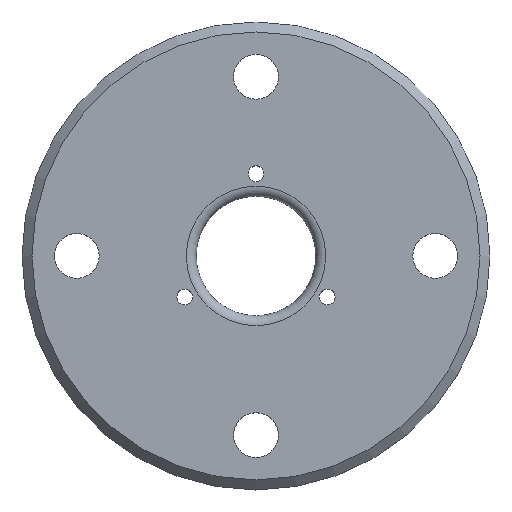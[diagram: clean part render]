
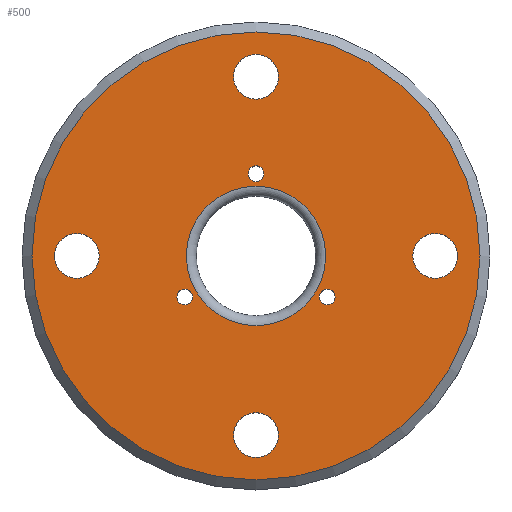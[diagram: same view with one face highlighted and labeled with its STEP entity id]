
A CAD part, top view. The second image highlights one B-rep face of the part: STEP entity #500.
In plain terms, the highlighted planar face has unit normal (0, 0, 1).
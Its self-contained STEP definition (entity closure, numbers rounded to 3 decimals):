
#13 = FACE_OUTER_BOUND ( 'NONE', #36, .T. ) ;
#15 = CARTESIAN_POINT ( 'NONE',  ( -20.25, 0., 0. ) ) ;
#17 = DIRECTION ( 'NONE',  ( -1., 0., 0. ) ) ;
#19 = CARTESIAN_POINT ( 'NONE',  ( -7.945, -4.125, 0. ) ) ;
#31 = EDGE_CURVE ( 'NONE', #832, #832, #183, .T. ) ;
#36 = EDGE_LOOP ( 'NONE', ( #515 ) ) ;
#43 = ORIENTED_EDGE ( 'NONE', *, *, #363, .T. ) ;
#53 = ORIENTED_EDGE ( 'NONE', *, *, #877, .T. ) ;
#61 = EDGE_LOOP ( 'NONE', ( #651 ) ) ;
#72 = FACE_BOUND ( 'NONE', #690, .T. ) ;
#78 = EDGE_CURVE ( 'NONE', #149, #149, #298, .T. ) ;
#95 = CARTESIAN_POINT ( 'NONE',  ( 15.75, 0., 0. ) ) ;
#130 = DIRECTION ( 'NONE',  ( 0., 0., -1. ) ) ;
#133 = DIRECTION ( 'NONE',  ( -1., 0., 0. ) ) ;
#149 = VERTEX_POINT ( 'NONE', #762 ) ;
#156 = DIRECTION ( 'NONE',  ( 0., 0., -1. ) ) ;
#162 = VERTEX_POINT ( 'NONE', #854 ) ;
#169 = CIRCLE ( 'NONE', #728, 2.25 ) ;
#183 = CIRCLE ( 'NONE', #309, 22.5 ) ;
#189 = ORIENTED_EDGE ( 'NONE', *, *, #606, .T. ) ;
#206 = CIRCLE ( 'NONE', #542, 2.25 ) ;
#207 = ORIENTED_EDGE ( 'NONE', *, *, #426, .T. ) ;
#227 = AXIS2_PLACEMENT_3D ( 'NONE', #510, #816, #133 ) ;
#232 = EDGE_LOOP ( 'NONE', ( #53 ) ) ;
#235 = DIRECTION ( 'NONE',  ( 0., 0., -1. ) ) ;
#237 = DIRECTION ( 'NONE',  ( 0., 0., 1. ) ) ;
#244 = DIRECTION ( 'NONE',  ( -1., 0., 0. ) ) ;
#250 = VERTEX_POINT ( 'NONE', #394 ) ;
#272 = CIRCLE ( 'NONE', #837, 0.8 ) ;
#284 = CIRCLE ( 'NONE', #759, 0.8 ) ;
#298 = CIRCLE ( 'NONE', #397, 7. ) ;
#309 = AXIS2_PLACEMENT_3D ( 'NONE', #553, #796, #933 ) ;
#311 = FACE_BOUND ( 'NONE', #61, .T. ) ;
#313 = VERTEX_POINT ( 'NONE', #782 ) ;
#315 = CIRCLE ( 'NONE', #657, 2.25 ) ;
#363 = EDGE_CURVE ( 'NONE', #162, #162, #272, .T. ) ;
#387 = EDGE_LOOP ( 'NONE', ( #647 ) ) ;
#394 = CARTESIAN_POINT ( 'NONE',  ( -2.25, -18., 0. ) ) ;
#397 = AXIS2_PLACEMENT_3D ( 'NONE', #790, #237, #853 ) ;
#403 = VERTEX_POINT ( 'NONE', #15 ) ;
#424 = EDGE_CURVE ( 'NONE', #558, #558, #749, .T. ) ;
#425 = ORIENTED_EDGE ( 'NONE', *, *, #78, .F. ) ;
#426 = EDGE_CURVE ( 'NONE', #250, #250, #169, .T. ) ;
#441 = CARTESIAN_POINT ( 'NONE',  ( 22.5, 0., 0. ) ) ;
#448 = EDGE_LOOP ( 'NONE', ( #425 ) ) ;
#454 = CARTESIAN_POINT ( 'NONE',  ( -7.145, -4.125, 0. ) ) ;
#455 = FACE_BOUND ( 'NONE', #232, .T. ) ;
#469 = VERTEX_POINT ( 'NONE', #95 ) ;
#500 = ADVANCED_FACE ( 'NONE', ( #525, #455, #72, #682, #529, #838, #311, #566, #13 ), #722, .F. ) ;
#510 = CARTESIAN_POINT ( 'NONE',  ( 18., 0., 0. ) ) ;
#515 = ORIENTED_EDGE ( 'NONE', *, *, #31, .T. ) ;
#525 = FACE_BOUND ( 'NONE', #387, .T. ) ;
#529 = FACE_BOUND ( 'NONE', #946, .T. ) ;
#536 = CARTESIAN_POINT ( 'NONE',  ( 0., -18., 0. ) ) ;
#542 = AXIS2_PLACEMENT_3D ( 'NONE', #810, #130, #896 ) ;
#553 = CARTESIAN_POINT ( 'NONE',  ( 0., 0., 0. ) ) ;
#558 = VERTEX_POINT ( 'NONE', #19 ) ;
#563 = EDGE_CURVE ( 'NONE', #313, #313, #284, .T. ) ;
#566 = FACE_BOUND ( 'NONE', #448, .T. ) ;
#599 = DIRECTION ( 'NONE',  ( -1., 0., 0. ) ) ;
#606 = EDGE_CURVE ( 'NONE', #469, #469, #774, .T. ) ;
#647 = ORIENTED_EDGE ( 'NONE', *, *, #689, .T. ) ;
#651 = ORIENTED_EDGE ( 'NONE', *, *, #424, .T. ) ;
#657 = AXIS2_PLACEMENT_3D ( 'NONE', #861, #856, #867 ) ;
#658 = CARTESIAN_POINT ( 'NONE',  ( 7.145, -4.125, 0. ) ) ;
#677 = DIRECTION ( 'NONE',  ( 0., 0., -1. ) ) ;
#682 = FACE_BOUND ( 'NONE', #806, .T. ) ;
#689 = EDGE_CURVE ( 'NONE', #859, #859, #206, .T. ) ;
#690 = EDGE_LOOP ( 'NONE', ( #207 ) ) ;
#694 = DIRECTION ( 'NONE',  ( 0., 0., -1. ) ) ;
#705 = CARTESIAN_POINT ( 'NONE',  ( 0., 8.25, 0. ) ) ;
#722 = PLANE ( 'NONE',  #803 ) ;
#728 = AXIS2_PLACEMENT_3D ( 'NONE', #536, #156, #913 ) ;
#749 = CIRCLE ( 'NONE', #825, 0.8 ) ;
#759 = AXIS2_PLACEMENT_3D ( 'NONE', #658, #677, #599 ) ;
#762 = CARTESIAN_POINT ( 'NONE',  ( 7., 0., 0. ) ) ;
#774 = CIRCLE ( 'NONE', #227, 2.25 ) ;
#782 = CARTESIAN_POINT ( 'NONE',  ( 6.345, -4.125, 0. ) ) ;
#790 = CARTESIAN_POINT ( 'NONE',  ( 0., 0., 0. ) ) ;
#796 = DIRECTION ( 'NONE',  ( 0., 0., 1. ) ) ;
#797 = CARTESIAN_POINT ( 'NONE',  ( -2.25, 18., 0. ) ) ;
#803 = AXIS2_PLACEMENT_3D ( 'NONE', #944, #862, #17 ) ;
#806 = EDGE_LOOP ( 'NONE', ( #189 ) ) ;
#810 = CARTESIAN_POINT ( 'NONE',  ( 0., 18., 0. ) ) ;
#816 = DIRECTION ( 'NONE',  ( 0., 0., -1. ) ) ;
#825 = AXIS2_PLACEMENT_3D ( 'NONE', #454, #235, #989 ) ;
#832 = VERTEX_POINT ( 'NONE', #441 ) ;
#837 = AXIS2_PLACEMENT_3D ( 'NONE', #705, #694, #244 ) ;
#838 = FACE_BOUND ( 'NONE', #909, .T. ) ;
#853 = DIRECTION ( 'NONE',  ( 1., 0., 0. ) ) ;
#854 = CARTESIAN_POINT ( 'NONE',  ( -0.8, 8.25, 0. ) ) ;
#856 = DIRECTION ( 'NONE',  ( 0., 0., -1. ) ) ;
#859 = VERTEX_POINT ( 'NONE', #797 ) ;
#861 = CARTESIAN_POINT ( 'NONE',  ( -18., 0., 0. ) ) ;
#862 = DIRECTION ( 'NONE',  ( 0., 0., -1. ) ) ;
#867 = DIRECTION ( 'NONE',  ( -1., 0., 0. ) ) ;
#877 = EDGE_CURVE ( 'NONE', #403, #403, #315, .T. ) ;
#896 = DIRECTION ( 'NONE',  ( -1., 0., 0. ) ) ;
#909 = EDGE_LOOP ( 'NONE', ( #973 ) ) ;
#913 = DIRECTION ( 'NONE',  ( -1., 0., 0. ) ) ;
#933 = DIRECTION ( 'NONE',  ( 1., 0., 0. ) ) ;
#944 = CARTESIAN_POINT ( 'NONE',  ( 0., 7., 0. ) ) ;
#946 = EDGE_LOOP ( 'NONE', ( #43 ) ) ;
#973 = ORIENTED_EDGE ( 'NONE', *, *, #563, .T. ) ;
#989 = DIRECTION ( 'NONE',  ( -1., 0., 0. ) ) ;
